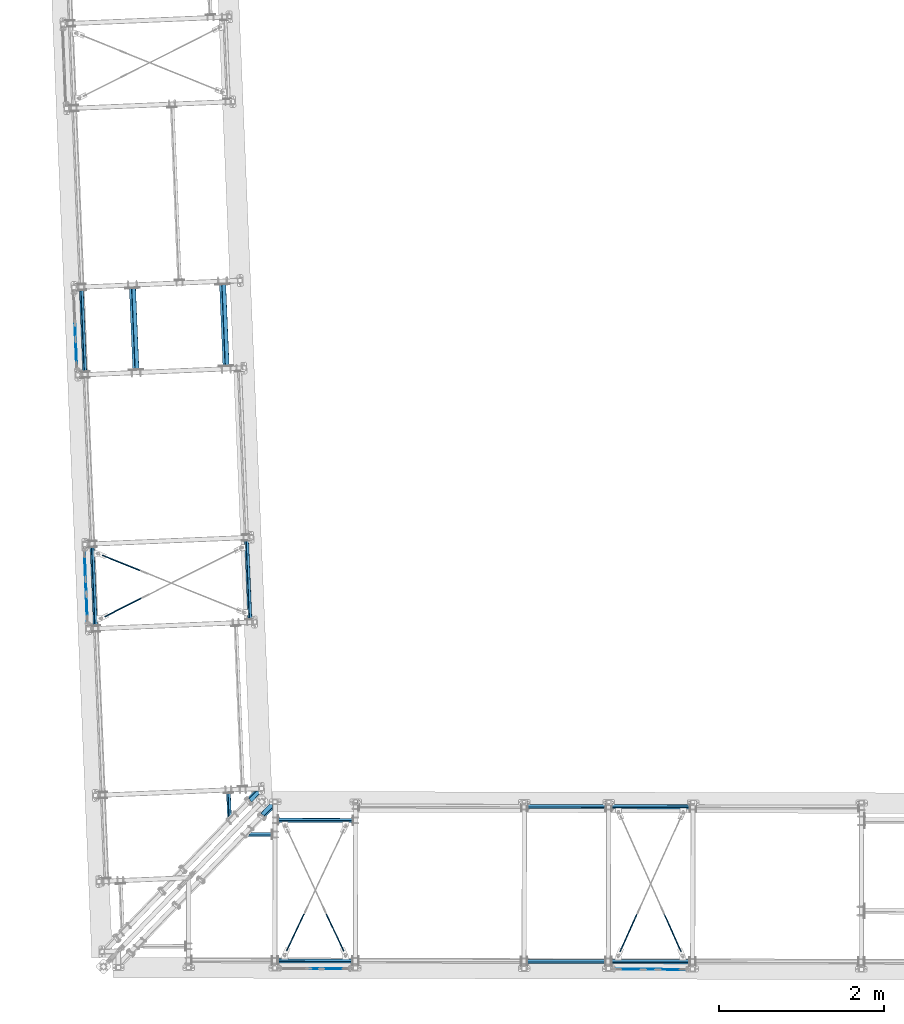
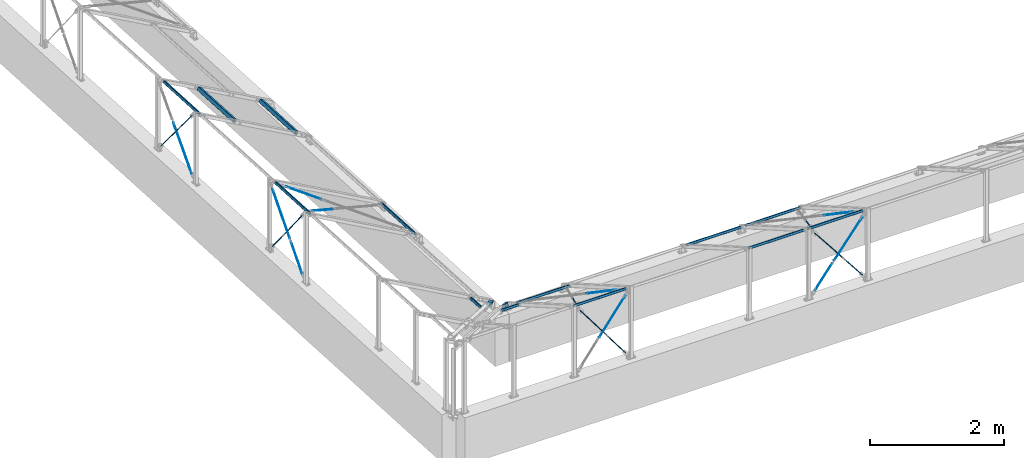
# One storey, part 19 of 288: 28 members, 7 beams.
"""IFC2X3 building model written with IfcOpenShell, lengths in millimetres."""

from ifc_helpers import new_model, entity, si_unit, converted_unit, frame, origin, origin_with_axes, origin_2d, place, context, project, spatial, hollow_rectangle, circle, extrude, clip, halfspace, material, element, save


model = new_model("IFC2X3")

# Units and contexts
model_context = context("Model", 3, precision=1e-09, world=origin_with_axes())
ifc_project = project(units=[si_unit("LENGTHUNIT", "METRE", prefix="MILLI"), si_unit("AREAUNIT", "SQUARE_METRE"), si_unit("VOLUMEUNIT", "CUBIC_METRE"), converted_unit("PLANEANGLEUNIT", "DEGREE", entity("IfcPlaneAngleMeasure", 0.01745329), si_unit("PLANEANGLEUNIT", "RADIAN"), dimensions=[0, 0, 0, 0, 0, 0, 0])], contexts=[model_context])

# Site, building, storey
site_placement = place(None, origin_with_axes())
site = spatial("IfcSite", under=ifc_project, at=site_placement, Name="Remont ?wietlik?w nad MC w NCPP w Opolu", CompositionType="ELEMENT")
building_placement = place(site_placement, origin_with_axes())
building = spatial("IfcBuilding", under=site, at=building_placement, Name="Konstrukcja 1", CompositionType="ELEMENT")
storey_placement = place(building_placement, origin_with_axes())
storey = spatial("IfcBuildingStorey", under=building, at=storey_placement, Name="Default Storey", CompositionType="ELEMENT", Elevation=0.0)

# Member
ifc_material_1 = material(Name="S235")
member_1_placement = place(None, frame((1662.26516748, 4090.025033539, 136.944482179), z_axis=(0.041662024, -0.999131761, -1.7472e-05), x_axis=(0.8652733, 0.036089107, -0.499999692)))
element("IfcMember", 1, at=member_1_placement, inside=storey, material=ifc_material_1, Name="TubeBracing", ObjectType="TubeBracing", context=model_context, shape_type="SweptSolid", body=[
    extrude(hollow_rectangle(XDim=40.0, YDim=40.0, WallThickness=3.0, InnerFilletRadius=3.0, OuterFilletRadius=6.0, at=origin_2d()), origin(), (0.0, 0.0, -1.0), 946.456982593),
])

# Beams
beam_1_placement = place(None, frame((6981.70955526, 1819.36156125, 138.338656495), z_axis=(0.999997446, -0.002260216, 3.354e-06), x_axis=(0.001959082, 0.866023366, -0.499999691)))
element("IfcBeam", 2, at=beam_1_placement, inside=storey, material=ifc_material_1, Name="TubeBracing", ObjectType="TubeBracing", context=model_context, shape_type="SweptSolid", body=[
    extrude(hollow_rectangle(XDim=40.0, YDim=40.0, WallThickness=3.0, InnerFilletRadius=3.0, OuterFilletRadius=6.0, at=origin_2d()), origin(), (0.0, 0.0, -1.0), 941.457139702),
])
beam_2_placement = place(None, frame((2903.499596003, 1655.37366331, 238.324918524), z_axis=(0.999997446, -0.002260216, 3.354e-06), x_axis=(0.001959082, 0.866023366, -0.499999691)))
element("IfcBeam", 3, at=beam_2_placement, inside=storey, material=ifc_material_1, Name="TubeBracing", ObjectType="TubeBracing", context=model_context, shape_type="SweptSolid", body=[
    extrude(hollow_rectangle(XDim=40.0, YDim=40.0, WallThickness=3.0, InnerFilletRadius=3.0, OuterFilletRadius=6.0, at=origin_2d()), origin(), (0.0, 0.0, -1.0), 897.370239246),
])

# Members
for number, where, z_axis, x_axis, name in (
    (4, (283.89783941, 7108.579223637, 862.964520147), (0.041662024, -0.999131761, -1.7472e-05), (0.8652733, 0.036089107, -0.499999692), "TubeBracing"),
    (5, (1374.142219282, 7154.050994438, 232.964908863), (0.041662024, -0.999131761, -1.7472e-05), (0.8652733, 0.036089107, -0.499999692), "TubeBracing"),
):
    element("IfcMember", number, at=place(None, frame(where, z_axis=z_axis, x_axis=x_axis)), inside=storey, material=ifc_material_1, Name=name, ObjectType="TubeBracing", context=model_context, shape_type="SweptSolid", body=[
        extrude(hollow_rectangle(XDim=60.0, YDim=60.0, WallThickness=3.0, InnerFilletRadius=3.0, OuterFilletRadius=6.0, at=origin_2d()), origin(), (0.0, 0.0, -1.0), 981.999999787),
    ])

# Beam
beam_3_placement = place(None, frame((1927.740094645, 1484.401353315, 338.300935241), z_axis=(0.999997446, -0.002260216, 3.354e-06), x_axis=(0.001959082, 0.866023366, -0.499999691)))
element("IfcBeam", 6, at=beam_3_placement, inside=storey, material=ifc_material_1, Name="TubeBracing", ObjectType="TubeBracing", context=model_context, shape_type="Clipping", body=[
    clip(extrude(hollow_rectangle(XDim=40.0, YDim=40.0, WallThickness=3.0, InnerFilletRadius=3.0, OuterFilletRadius=6.0, at=origin_2d()), origin(), (0.0, 0.0, -1.0), 1000.218914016), halfspace(frame((-1472.688468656, -1036.869683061, -1499.206121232), z_axis=(-0.638283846, 0.000867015, 0.769800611), x_axis=(0.703641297, 0.4062449, 0.582969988)), True)),
])

# Members
member_2_placement = place(None, frame((1420.3668001, 1576.466208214, 336.904024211), z_axis=(0.041662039, -0.99913176, -1.7444e-05), x_axis=(0.8652733, 0.036089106, -0.499999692)))
element("IfcMember", 7, at=member_2_placement, inside=storey, material=ifc_material_1, Name="TubeBracing", ObjectType="TubeBracing", context=model_context, shape_type="Clipping", body=[
    clip(clip(extrude(hollow_rectangle(XDim=40.0, YDim=40.0, WallThickness=3.0, InnerFilletRadius=3.0, OuterFilletRadius=6.0, at=origin_2d()), origin(), (0.0, 0.0, -1.0), 475.801021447), halfspace(frame((-1469.27503328, -1034.15212744, 1091.447943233), z_axis=(-0.638142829, -3.253e-06, -0.769918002), x_axis=(-0.703544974, -0.4061798, 0.58313158)), True)), halfspace(frame((-1117.446415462, -1034.188865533, -408.495213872), z_axis=(-2.09e-07, 2.0022e-05, 1.0), x_axis=(0.866025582, 0.499999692, -9.83e-06)), True)),
])
member_3_placement = place(None, frame((1759.324512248, 1653.575886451, 241.939833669), z_axis=(-0.639790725, -0.665583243, 0.384274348), x_axis=(0.0, 0.499999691, 0.866025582)))
element("IfcMember", 8, at=member_3_placement, inside=storey, material=ifc_material_1, Name="-", ObjectType="-", context=model_context, shape_type="Clipping", body=[
    clip(clip(extrude(hollow_rectangle(XDim=60.0, YDim=60.0, WallThickness=3.0, InnerFilletRadius=3.0, OuterFilletRadius=6.0, at=origin_2d()), origin(), (0.0, 0.0, -1.0), 474.955633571), halfspace(frame((-1038.500077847, -974.996788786, 899.178535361), z_axis=(0.001130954, 0.769800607, 0.638283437), x_axis=(-0.499998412, -0.552335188, 0.667028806)), True)), halfspace(frame((-1036.313518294, 513.317496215, -84.927406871), z_axis=(0.0, 0.0, -1.0), x_axis=(0.346499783, 0.938050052, 0.0)), True)),
])
member_4_placement = place(None, frame((1887.177033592, 2139.448724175, 57.689579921), z_axis=(0.639589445, 0.665373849, -0.384971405), x_axis=(0.499581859, 0.020836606, 0.866016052)))
element("IfcMember", 9, at=member_4_placement, inside=storey, material=ifc_material_1, Name="-", ObjectType="-", context=model_context, shape_type="Clipping", body=[
    clip(clip(extrude(hollow_rectangle(XDim=60.0, YDim=60.0, WallThickness=3.0, InnerFilletRadius=3.0, OuterFilletRadius=6.0, at=origin_2d()), origin(), (0.0, 0.0, -1.0), 451.705310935), halfspace(frame((-1037.338361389, -976.246589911, -1374.542462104), z_axis=(0.0, 0.769917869, -0.63814299), x_axis=(0.500016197, 0.552642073, 0.666761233)), True)), halfspace(frame((-1037.338361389, 512.330457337, -366.777904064), z_axis=(0.0, 0.0, 1.0), x_axis=(-0.345727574, -0.938334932, 0.0)), True)),
])
member_5_placement = place(None, frame((-333.938274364, 7082.810622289, 1219.982192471), z_axis=(0.041662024, -0.999131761, -1.7472e-05), x_axis=(0.8652733, 0.036089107, -0.499999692)))
element("IfcMember", 10, at=member_5_placement, inside=storey, material=ifc_material_1, Name="TubeBracing", ObjectType="TubeBracing", context=model_context, shape_type="SweptSolid", body=[
    extrude(hollow_rectangle(XDim=40.0, YDim=40.0, WallThickness=3.0, InnerFilletRadius=3.0, OuterFilletRadius=6.0, at=origin_2d()), origin(), (0.0, 0.0, -1.0), 981.999999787),
])
member_6_placement = place(None, frame((-205.895419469, 4012.10809651, 1219.928495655), z_axis=(0.041662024, -0.999131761, -1.7472e-05), x_axis=(0.8652733, 0.036089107, -0.499999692)))
element("IfcMember", 11, at=member_6_placement, inside=storey, material=ifc_material_1, Name="TubeBracing", ObjectType="TubeBracing", context=model_context, shape_type="SweptSolid", body=[
    extrude(hollow_rectangle(XDim=40.0, YDim=40.0, WallThickness=3.0, InnerFilletRadius=3.0, OuterFilletRadius=6.0, at=origin_2d()), origin(), (0.0, 0.0, -1.0), 946.456982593),
])

# Beams
beam_4_placement = place(None, frame((6977.471452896, -54.115573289, 1219.993062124), z_axis=(0.999997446, -0.002260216, 3.354e-06), x_axis=(0.001959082, 0.866023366, -0.499999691)))
element("IfcBeam", 12, at=beam_4_placement, inside=storey, material=ifc_material_1, Name="TubeBracing", ObjectType="TubeBracing", context=model_context, shape_type="SweptSolid", body=[
    extrude(hollow_rectangle(XDim=40.0, YDim=40.0, WallThickness=3.0, InnerFilletRadius=3.0, OuterFilletRadius=6.0, at=origin_2d()), origin(), (0.0, 0.0, -1.0), 941.457139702),
])
beam_5_placement = place(None, frame((2899.653310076, -44.898798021, 1219.979385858), z_axis=(0.999997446, -0.002260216, 3.354e-06), x_axis=(0.001959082, 0.866023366, -0.499999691)))
element("IfcBeam", 13, at=beam_5_placement, inside=storey, material=ifc_material_1, Name="TubeBracing", ObjectType="TubeBracing", context=model_context, shape_type="SweptSolid", body=[
    extrude(hollow_rectangle(XDim=40.0, YDim=40.0, WallThickness=3.0, InnerFilletRadius=3.0, OuterFilletRadius=6.0, at=origin_2d()), origin(), (0.0, 0.0, -1.0), 897.370239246),
])

# Members
ifc_material_2 = material(Name="S275J2")
member_7_placement = place(None, frame((-453.19568238, 7674.291623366, 781.691197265), z_axis=(-0.026273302, 0.629932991, 0.77620496), x_axis=(0.999131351, 0.041671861, 0.0)))
element("IfcMember", 14, at=member_7_placement, inside=storey, material=ifc_material_2, Name="Tension_Rod#1", ObjectType="Tension_Rod#1", context=model_context, shape_type="Clipping", body=[
    clip(clip(extrude(circle(Radius=6.0, at=origin_2d()), origin(), (0.0, 0.0, -1.0), 967.970562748), halfspace(frame((133.000000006, -5473.466680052, -33.486281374), z_axis=(0.0, 0.0, -1.0), x_axis=(1.0, 0.0, 0.0)), True)), halfspace(frame((133.000000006, -5473.466680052, -849.484281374), z_axis=(0.0, 0.0, 1.0), x_axis=(-1.0, 0.0, 0.0)), True)),
])
member_8_placement = place(None, frame((-444.449849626, 7464.600108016, 781.691197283), z_axis=(0.026273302, -0.629932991, 0.77620496), x_axis=(-0.999131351, -0.041671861, 0.0)))
element("IfcMember", 15, at=member_8_placement, inside=storey, material=ifc_material_2, Name="Tension_Rod#1", ObjectType="Tension_Rod#1", context=model_context, shape_type="Clipping", body=[
    clip(clip(extrude(circle(Radius=6.0, at=origin_2d()), origin(), (0.0, 0.0, -1.0), 967.970562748), halfspace(frame((-133.000000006, 6296.24393816, -33.486281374), z_axis=(0.0, 0.0, -1.0), x_axis=(1.0, 0.0, 0.0)), True)), halfspace(frame((-133.000000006, 6296.24393816, -849.484281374), z_axis=(0.0, 0.0, 1.0), x_axis=(-1.0, 0.0, 0.0)), True)),
])
member_9_placement = place(None, frame((-444.895722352, 7475.290425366, 768.518562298), z_axis=(-0.026273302, 0.629932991, -0.77620496), x_axis=(0.999131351, 0.041671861, 0.0)))
element("IfcMember", 16, at=member_9_placement, inside=storey, material=ifc_material_2, Name="Tension_Rod#2", ObjectType="Tension_Rod#2", context=model_context, shape_type="Clipping", body=[
    clip(clip(extrude(circle(Radius=6.0, at=origin_2d()), origin(), (0.0, 0.0, -1.0), 652.062044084), halfspace(frame((133.000000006, 6296.24393816, -33.486281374), z_axis=(0.0, 0.0, -1.0), x_axis=(1.0, 0.0, 0.0)), True)), halfspace(frame((133.000000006, 6296.24393816, -533.57576271), z_axis=(0.0, 0.0, 1.0), x_axis=(-1.0, 0.0, 0.0)), True)),
])
member_10_placement = place(None, frame((-323.51648805, 4565.801361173, 544.369209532), z_axis=(0.02573926, -0.616949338, 0.786581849), x_axis=(-0.999130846, -0.041683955, 0.0)))
element("IfcMember", 17, at=member_10_placement, inside=storey, material=ifc_material_2, Name="Tension_Rod#1", ObjectType="Tension_Rod#1", context=model_context, shape_type="Clipping", body=[
    clip(clip(extrude(circle(Radius=6.0, at=origin_2d()), origin(), (0.0, 0.0, -1.0), 651.970562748), halfspace(frame((-132.914643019, 3935.00280521, -33.486281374), z_axis=(0.0, 0.0, -1.0), x_axis=(1.0, 0.0, 0.0)), True)), halfspace(frame((-132.914643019, 3935.00280521, -533.484281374), z_axis=(0.0, 0.0, 1.0), x_axis=(-1.0, 0.0, 0.0)), True)),
])
member_11_placement = place(None, frame((-323.953297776, 4576.271338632, 531.020472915), z_axis=(-0.02573926, 0.616949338, -0.786581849), x_axis=(0.999130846, 0.041683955, 0.0)))
element("IfcMember", 18, at=member_11_placement, inside=storey, material=ifc_material_2, Name="Tension_Rod#2", ObjectType="Tension_Rod#2", context=model_context, shape_type="Clipping", body=[
    clip(clip(extrude(circle(Radius=6.0, at=origin_2d()), origin(), (0.0, 0.0, -1.0), 943.879558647), halfspace(frame((132.914643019, 3935.00280521, -33.486281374), z_axis=(0.0, 0.0, -1.0), x_axis=(1.0, 0.0, 0.0)), True)), halfspace(frame((132.914643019, 3935.00280521, -825.393277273), z_axis=(0.0, 0.0, 1.0), x_axis=(-1.0, 0.0, 0.0)), True)),
])
member_12_placement = place(None, frame((-316.441829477, 4396.178191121, 544.369209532), z_axis=(-0.025724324, 0.616949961, 0.786581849), x_axis=(0.999131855, 0.041659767, 0.0)))
element("IfcMember", 19, at=member_12_placement, inside=storey, material=ifc_material_2, Name="Tension_Rod#1", ObjectType="Tension_Rod#1", context=model_context, shape_type="Clipping", body=[
    clip(clip(extrude(circle(Radius=6.0, at=origin_2d()), origin(), (0.0, 0.0, -1.0), 651.970562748), halfspace(frame((133.023353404, -3129.181005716, -33.486281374), z_axis=(0.0, 0.0, -1.0), x_axis=(1.0, 0.0, 0.0)), True)), halfspace(frame((133.023353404, -3129.181005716, -533.484281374), z_axis=(0.0, 0.0, 1.0), x_axis=(-1.0, 0.0, 0.0)), True)),
])
member_13_placement = place(None, frame((-316.005273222, 4385.70820309, 531.020472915), z_axis=(0.025724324, -0.616949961, -0.786581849), x_axis=(-0.999131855, -0.041659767, 0.0)))
element("IfcMember", 20, at=member_13_placement, inside=storey, material=ifc_material_2, Name="Tension_Rod#2", ObjectType="Tension_Rod#2", context=model_context, shape_type="Clipping", body=[
    clip(clip(extrude(circle(Radius=6.0, at=origin_2d()), origin(), (0.0, 0.0, -1.0), 943.879558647), halfspace(frame((-133.023353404, -3129.181005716, -33.486281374), z_axis=(0.0, 0.0, -1.0), x_axis=(1.0, 0.0, 0.0)), True)), halfspace(frame((-133.023353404, -3129.181005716, -825.393277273), z_axis=(0.0, 0.0, 1.0), x_axis=(-1.0, 0.0, 0.0)), True)),
])
member_14_placement = place(None, frame((396.387426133, 4651.550590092, 865.213153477), z_axis=(0.820210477, -0.330857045, -0.466678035), x_axis=(-0.500767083, -0.020865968, -0.865330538)))
element("IfcMember", 21, at=member_14_placement, inside=storey, material=ifc_material_2, Name="Tension_Rod#1", ObjectType="Tension_Rod#1", context=model_context, shape_type="Clipping", body=[
    clip(clip(extrude(circle(Radius=6.0, at=origin_2d()), origin(), (0.0, 0.0, -1.0), 761.970562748), halfspace(frame((1044.252245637, -4339.974107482, -33.486281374), z_axis=(0.0, 0.0, -1.0), x_axis=(0.206683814, -0.978407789, 0.0)), True)), halfspace(frame((1044.252245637, -4339.974107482, -633.484281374), z_axis=(0.0, 0.0, 1.0), x_axis=(-0.206683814, 0.978407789, 0.0)), True)),
])
member_15_placement = place(None, frame((408.099478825, 4370.674083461, 865.208241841), z_axis=(0.789818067, 0.398008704, -0.466665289), x_axis=(0.500767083, 0.020865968, 0.865330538)))
element("IfcMember", 22, at=member_15_placement, inside=storey, material=ifc_material_2, Name="Tension_Rod#1", ObjectType="Tension_Rod#1", context=model_context, shape_type="Clipping", body=[
    clip(clip(extrude(circle(Radius=6.0, at=origin_2d()), origin(), (0.0, 0.0, -1.0), 761.970562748), halfspace(frame((-1044.252245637, 4022.197304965, -33.486281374), z_axis=(0.0, 0.0, -1.0), x_axis=(0.20671903, 0.978400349, 0.0)), True)), halfspace(frame((-1044.252245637, 4022.197304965, -633.484281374), z_axis=(0.0, 0.0, 1.0), x_axis=(-0.20671903, -0.978400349, 0.0)), True)),
])

# Beams
beam_6_placement = place(None, frame((5962.255019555, 1821.665755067, 138.335237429), z_axis=(0.999997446, -0.002260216, 3.354e-06), x_axis=(0.001959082, 0.866023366, -0.499999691)))
element("IfcBeam", 23, at=beam_6_placement, inside=storey, material=ifc_material_1, Name="TubeBracing", ObjectType="TubeBracing", context=model_context, shape_type="Clipping", body=[
    clip(extrude(hollow_rectangle(XDim=40.0, YDim=40.0, WallThickness=3.0, InnerFilletRadius=3.0, OuterFilletRadius=6.0, at=origin_2d()), origin(), (0.0, 0.0, -1.0), 1008.742305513), halfspace(frame((-1520.115964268, -1037.371344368, -941.460184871), z_axis=(4.22e-07, -3.751e-06, 1.0), x_axis=(0.866025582, 0.499999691, 1.51e-06)), True)),
])
beam_7_placement = place(None, frame((5958.016917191, -51.811379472, 1219.989643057), z_axis=(0.999997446, -0.002260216, 3.354e-06), x_axis=(0.001959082, 0.866023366, -0.499999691)))
element("IfcBeam", 24, at=beam_7_placement, inside=storey, material=ifc_material_1, Name="TubeBracing", ObjectType="TubeBracing", context=model_context, shape_type="Clipping", body=[
    clip(extrude(hollow_rectangle(XDim=40.0, YDim=40.0, WallThickness=3.0, InnerFilletRadius=3.0, OuterFilletRadius=6.0, at=origin_2d()), origin(), (0.0, 0.0, -1.0), 1008.74132654), halfspace(frame((643.19418187, -1037.371344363, -941.46018487), z_axis=(4.22e-07, -3.751e-06, 1.0), x_axis=(0.866025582, 0.499999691, 1.51e-06)), True)),
])

# Members
member_16_placement = place(None, frame((2368.146985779, -138.281007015, 541.973534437), z_axis=(-0.598669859, 0.001410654, -0.800994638), x_axis=(0.002356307, 0.999997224, 0.0)))
element("IfcMember", 25, at=member_16_placement, inside=storey, material=ifc_material_2, Name="Tension_Rod#2", ObjectType="Tension_Rod#2", context=model_context, shape_type="Clipping", body=[
    clip(clip(extrude(circle(Radius=6.0, at=origin_2d()), origin(), (0.0, 0.0, -1.0), 910.973047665), halfspace(frame((132.700541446, -1572.664641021, -33.486281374), z_axis=(0.0, 0.0, -1.0), x_axis=(1.0, 0.0, 0.0)), True)), halfspace(frame((132.700541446, -1572.664641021, -792.486766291), z_axis=(0.0, 0.0, 1.0), x_axis=(-1.0, 0.0, 0.0)), True)),
])
member_17_placement = place(None, frame((2523.20399789, -138.632691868, 555.566864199), z_axis=(-0.598670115, 0.001297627, 0.800994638), x_axis=(0.002167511, 0.999997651, 0.0)))
element("IfcMember", 26, at=member_17_placement, inside=storey, material=ifc_material_2, Name="Tension_Rod#1", ObjectType="Tension_Rod#1", context=model_context, shape_type="Clipping", body=[
    clip(clip(extrude(circle(Radius=6.0, at=origin_2d()), origin(), (0.0, 0.0, -1.0), 651.970562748), halfspace(frame((133.163293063, 2353.910873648, -33.486281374), z_axis=(0.0, 0.0, -1.0), x_axis=(1.0, 0.0, 0.0)), True)), halfspace(frame((133.163293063, 2353.910873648, -533.484281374), z_axis=(0.0, 0.0, 1.0), x_axis=(-1.0, 0.0, 0.0)), True)),
])
member_18_placement = place(None, frame((2533.36376664, -138.654713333, 541.973534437), z_axis=(0.598670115, -0.001297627, -0.800994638), x_axis=(-0.002167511, -0.999997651, 0.0)))
element("IfcMember", 27, at=member_18_placement, inside=storey, material=ifc_material_2, Name="Tension_Rod#2", ObjectType="Tension_Rod#2", context=model_context, shape_type="Clipping", body=[
    clip(clip(extrude(circle(Radius=6.0, at=origin_2d()), origin(), (0.0, 0.0, -1.0), 910.973047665), halfspace(frame((-133.163293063, 2353.910873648, -33.486281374), z_axis=(0.0, 0.0, -1.0), x_axis=(1.0, 0.0, 0.0)), True)), halfspace(frame((-133.163293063, 2353.910873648, -792.486766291), z_axis=(0.0, 0.0, 1.0), x_axis=(-1.0, 0.0, 0.0)), True)),
])
member_19_placement = place(None, frame((6422.941687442, -147.480303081, 545.498848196), z_axis=(0.615614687, -0.00138785, 0.788046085), x_axis=(-0.002254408, -0.999997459, 0.0)))
element("IfcMember", 28, at=member_19_placement, inside=storey, material=ifc_material_2, Name="Tension_Rod#1", ObjectType="Tension_Rod#1", context=model_context, shape_type="Clipping", body=[
    clip(clip(extrude(circle(Radius=6.0, at=origin_2d()), origin(), (0.0, 0.0, -1.0), 651.970562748), halfspace(frame((-133.0, -4726.005240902, -33.486281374), z_axis=(0.0, 0.0, -1.0), x_axis=(1.0, 0.0, 0.0)), True)), halfspace(frame((-133.0, -4726.005240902, -533.484281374), z_axis=(0.0, 0.0, 1.0), x_axis=(-1.0, 0.0, 0.0)), True)),
])
member_20_placement = place(None, frame((6412.494359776, -147.456750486, 532.125262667), z_axis=(-0.615614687, 0.00138785, -0.788046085), x_axis=(0.002254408, 0.999997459, 0.0)))
element("IfcMember", 29, at=member_20_placement, inside=storey, material=ifc_material_2, Name="Tension_Rod#2", ObjectType="Tension_Rod#2", context=model_context, shape_type="Clipping", body=[
    clip(clip(extrude(circle(Radius=6.0, at=origin_2d()), origin(), (0.0, 0.0, -1.0), 940.501771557), halfspace(frame((133.0, -4726.005240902, -33.486281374), z_axis=(0.0, 0.0, -1.0), x_axis=(1.0, 0.0, 0.0)), True)), halfspace(frame((133.0, -4726.005240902, -822.015490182), z_axis=(0.0, 0.0, 1.0), x_axis=(-1.0, 0.0, 0.0)), True)),
])
member_21_placement = place(None, frame((6590.118406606, -147.858442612, 545.498848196), z_axis=(-0.615614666, 0.001397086, 0.788046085), x_axis=(0.002269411, 0.999997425, 0.0)))
element("IfcMember", 30, at=member_21_placement, inside=storey, material=ifc_material_2, Name="Tension_Rod#1", ObjectType="Tension_Rod#1", context=model_context, shape_type="Clipping", body=[
    clip(clip(extrude(circle(Radius=6.0, at=origin_2d()), origin(), (0.0, 0.0, -1.0), 651.970562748), halfspace(frame((132.902375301, 5529.386020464, -33.486281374), z_axis=(0.0, 0.0, -1.0), x_axis=(1.0, 0.0, 0.0)), True)), halfspace(frame((132.902375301, 5529.386020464, -533.484281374), z_axis=(0.0, 0.0, 1.0), x_axis=(-1.0, 0.0, 0.0)), True)),
])
member_22_placement = place(None, frame((6600.565733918, -147.882151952, 532.125262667), z_axis=(0.615614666, -0.001397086, -0.788046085), x_axis=(-0.002269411, -0.999997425, 0.0)))
element("IfcMember", 31, at=member_22_placement, inside=storey, material=ifc_material_2, Name="Tension_Rod#2", ObjectType="Tension_Rod#2", context=model_context, shape_type="Clipping", body=[
    clip(clip(extrude(circle(Radius=6.0, at=origin_2d()), origin(), (0.0, 0.0, -1.0), 940.501771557), halfspace(frame((-132.902375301, 5529.386020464, -33.486281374), z_axis=(0.0, 0.0, -1.0), x_axis=(1.0, 0.0, 0.0)), True)), halfspace(frame((-132.902375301, 5529.386020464, -822.015490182), z_axis=(0.0, 0.0, 1.0), x_axis=(-1.0, 0.0, 0.0)), True)),
])
member_23_placement = place(None, frame((6368.36497018, 576.73515348, 865.802854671), z_axis=(0.364334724, 0.806297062, -0.465988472), x_axis=(-0.001127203, -0.499998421, -0.866025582)))
element("IfcMember", 32, at=member_23_placement, inside=storey, material=ifc_material_2, Name="Tension_Rod#1", ObjectType="Tension_Rod#1", context=model_context, shape_type="Clipping", body=[
    clip(clip(extrude(circle(Radius=6.0, at=origin_2d()), origin(), (0.0, 0.0, -1.0), 761.970562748), halfspace(frame((1045.352527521, 5905.307953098, -33.486281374), z_axis=(0.0, 0.0, -1.0), x_axis=(0.204859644, -0.97879136, 0.0)), True)), halfspace(frame((1045.352527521, 5905.307953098, -633.484281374), z_axis=(0.0, 0.0, 1.0), x_axis=(-0.204859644, 0.97879136, 0.0)), True)),
])
member_24_placement = place(None, frame((6647.971064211, 576.103181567, 865.803792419), z_axis=(-0.360683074, 0.807935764, -0.465990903), x_axis=(0.001127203, 0.499998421, 0.866025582)))
element("IfcMember", 33, at=member_24_placement, inside=storey, material=ifc_material_2, Name="Tension_Rod#1", ObjectType="Tension_Rod#1", context=model_context, shape_type="Clipping", body=[
    clip(clip(extrude(circle(Radius=6.0, at=origin_2d()), origin(), (0.0, 0.0, -1.0), 761.970562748), halfspace(frame((-1045.352527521, -6223.20224943, -33.486281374), z_axis=(0.0, 0.0, -1.0), x_axis=(0.204852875, 0.978792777, 0.0)), True)), halfspace(frame((-1045.352527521, -6223.20224943, -633.484281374), z_axis=(0.0, 0.0, 1.0), x_axis=(-0.204852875, -0.978792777, 0.0)), True)),
])
member_25_placement = place(None, frame((2345.349093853, 582.254476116, 867.852566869), z_axis=(0.378100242, 0.801523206, -0.46325021), x_axis=(-0.001127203, -0.499998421, -0.866025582)))
element("IfcMember", 34, at=member_25_placement, inside=storey, material=ifc_material_2, Name="Tension_Rod#1", ObjectType="Tension_Rod#1", context=model_context, shape_type="Clipping", body=[
    clip(clip(extrude(circle(Radius=6.0, at=origin_2d()), origin(), (0.0, 0.0, -1.0), 761.970562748), halfspace(frame((1045.352527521, 2143.562671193, -33.486281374), z_axis=(0.0, 0.0, -1.0), x_axis=(0.212299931, -0.977204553, 0.0)), True)), halfspace(frame((1045.352527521, 2143.562671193, -633.484281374), z_axis=(0.0, 0.0, 1.0), x_axis=(-0.212299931, 0.977204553, 0.0)), True)),
])
member_26_placement = place(None, frame((2559.421274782, 581.770625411, 867.853284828), z_axis=(-0.374470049, 0.803224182, -0.463252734), x_axis=(0.001127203, 0.499998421, 0.866025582)))
element("IfcMember", 35, at=member_26_placement, inside=storey, material=ifc_material_2, Name="Tension_Rod#1", ObjectType="Tension_Rod#1", context=model_context, shape_type="Clipping", body=[
    clip(clip(extrude(circle(Radius=6.0, at=origin_2d()), origin(), (0.0, 0.0, -1.0), 761.970562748), halfspace(frame((-1045.352527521, -2398.280525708, -33.486281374), z_axis=(0.0, 0.0, -1.0), x_axis=(0.212293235, 0.977206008, 0.0)), True)), halfspace(frame((-1045.352527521, -2398.280525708, -633.484281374), z_axis=(0.0, 0.0, 1.0), x_axis=(-0.212293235, -0.977206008, 0.0)), True)),
])

save(model, "model.ifc")
